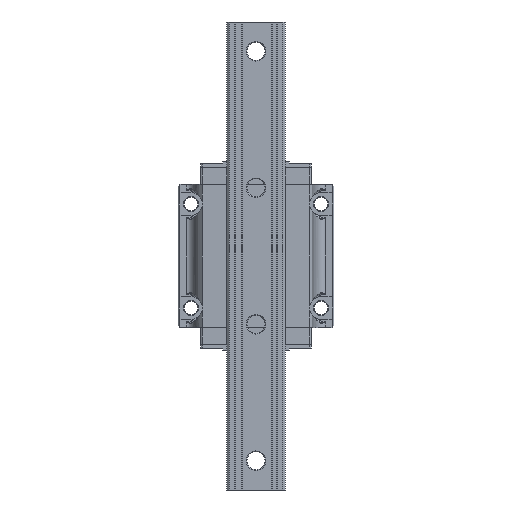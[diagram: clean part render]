
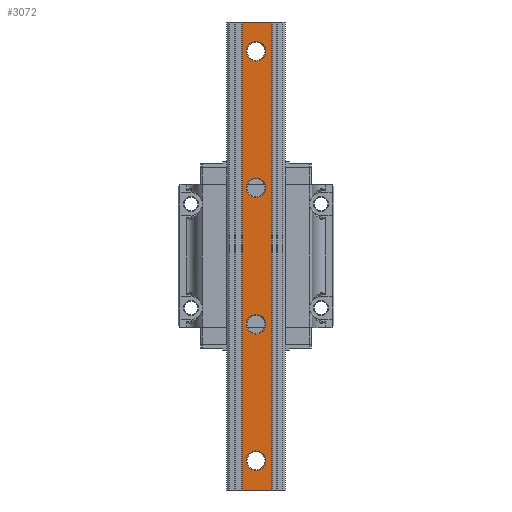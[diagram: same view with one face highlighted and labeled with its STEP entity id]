
A CAD part, front view. The second image highlights one B-rep face of the part: STEP entity #3072.
In plain terms, the highlighted planar face has unit normal (0, -1, 0).
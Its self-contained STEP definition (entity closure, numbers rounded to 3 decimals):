
#217 = ORIENTED_EDGE ( 'NONE', *, *, #511, .T. ) ;
#237 = EDGE_CURVE ( 'NONE', #22203, #10851, #1583, .T. ) ;
#511 = EDGE_CURVE ( 'NONE', #13428, #17512, #14276, .T. ) ;
#1121 = DIRECTION ( 'NONE',  ( -1., 0., 0. ) ) ;
#1258 = CARTESIAN_POINT ( 'NONE',  ( -10.5, -31.1, 180. ) ) ;
#1269 = EDGE_LOOP ( 'NONE', ( #217, #10827, #9780, #10318 ) ) ;
#1482 = CARTESIAN_POINT ( 'NONE',  ( 12., -31.1, 180. ) ) ;
#1504 = CARTESIAN_POINT ( 'NONE',  ( 0., -31.1, -157.5 ) ) ;
#1583 = CIRCLE ( 'NONE', #21045, 7.5 ) ;
#1788 = DIRECTION ( 'NONE',  ( -1., 0., 0. ) ) ;
#2172 = EDGE_CURVE ( 'NONE', #16474, #19170, #23181, .T. ) ;
#2660 = LINE ( 'NONE', #6243, #14253 ) ;
#2799 = CARTESIAN_POINT ( 'NONE',  ( 0., -31.1, 157.5 ) ) ;
#2916 = ORIENTED_EDGE ( 'NONE', *, *, #14088, .T. ) ;
#3072 = ADVANCED_FACE ( 'NONE', ( #11449, #15419, #17141, #3379, #7336 ), #11573, .F. ) ;
#3379 = FACE_BOUND ( 'NONE', #23287, .T. ) ;
#3392 = EDGE_LOOP ( 'NONE', ( #25296, #12514 ) ) ;
#3864 = CARTESIAN_POINT ( 'NONE',  ( 0., -31.1, 150. ) ) ;
#3982 = DIRECTION ( 'NONE',  ( 0., 0., -1. ) ) ;
#4195 = VERTEX_POINT ( 'NONE', #13433 ) ;
#4222 = CARTESIAN_POINT ( 'NONE',  ( -10.5, -31.1, -180. ) ) ;
#4717 = DIRECTION ( 'NONE',  ( -1., 0., 0. ) ) ;
#4758 = CARTESIAN_POINT ( 'NONE',  ( -10.5, -31.1, 180. ) ) ;
#4770 = DIRECTION ( 'NONE',  ( 0., 0., -1. ) ) ;
#5307 = DIRECTION ( 'NONE',  ( 1., 0., 0. ) ) ;
#5357 = DIRECTION ( 'NONE',  ( 0., 1., 0. ) ) ;
#5643 = DIRECTION ( 'NONE',  ( 0., 1., 0. ) ) ;
#6051 = ORIENTED_EDGE ( 'NONE', *, *, #237, .T. ) ;
#6144 = DIRECTION ( 'NONE',  ( 0., 1., 0. ) ) ;
#6243 = CARTESIAN_POINT ( 'NONE',  ( -10.5, -31.1, 180. ) ) ;
#6361 = CARTESIAN_POINT ( 'NONE',  ( 0., -31.1, -165. ) ) ;
#6706 = CIRCLE ( 'NONE', #23665, 7.5 ) ;
#6734 = EDGE_CURVE ( 'NONE', #13879, #4195, #8883, .T. ) ;
#6837 = DIRECTION ( 'NONE',  ( 0., 1., 0. ) ) ;
#7081 = AXIS2_PLACEMENT_3D ( 'NONE', #19541, #5357, #11040 ) ;
#7144 = CARTESIAN_POINT ( 'NONE',  ( 0., -31.1, 157.5 ) ) ;
#7150 = CARTESIAN_POINT ( 'NONE',  ( 0., -31.1, 45. ) ) ;
#7336 = FACE_OUTER_BOUND ( 'NONE', #1269, .T. ) ;
#7572 = VECTOR ( 'NONE', #5307, 1000. ) ;
#7857 = CIRCLE ( 'NONE', #22247, 7.5 ) ;
#8883 = LINE ( 'NONE', #4758, #7572 ) ;
#8988 = EDGE_LOOP ( 'NONE', ( #18208, #13521 ) ) ;
#9347 = EDGE_CURVE ( 'NONE', #21421, #23837, #9573, .T. ) ;
#9573 = CIRCLE ( 'NONE', #15469, 7.5 ) ;
#9598 = DIRECTION ( 'NONE',  ( 0., 1., 0. ) ) ;
#9780 = ORIENTED_EDGE ( 'NONE', *, *, #6734, .F. ) ;
#9937 = AXIS2_PLACEMENT_3D ( 'NONE', #1258, #19143, #1121 ) ;
#9962 = CARTESIAN_POINT ( 'NONE',  ( 12., -31.1, -180. ) ) ;
#10112 = CARTESIAN_POINT ( 'NONE',  ( 0., -31.1, 165. ) ) ;
#10318 = ORIENTED_EDGE ( 'NONE', *, *, #18480, .T. ) ;
#10827 = ORIENTED_EDGE ( 'NONE', *, *, #23833, .F. ) ;
#10851 = VERTEX_POINT ( 'NONE', #6361 ) ;
#10947 = CARTESIAN_POINT ( 'NONE',  ( 0., -31.1, 52.5 ) ) ;
#11040 = DIRECTION ( 'NONE',  ( -1., 0., 0. ) ) ;
#11380 = DIRECTION ( 'NONE',  ( -1., 0., 0. ) ) ;
#11449 = FACE_BOUND ( 'NONE', #3392, .T. ) ;
#11573 = PLANE ( 'NONE',  #9937 ) ;
#11735 = CIRCLE ( 'NONE', #7081, 7.5 ) ;
#12158 = AXIS2_PLACEMENT_3D ( 'NONE', #25920, #5643, #24183 ) ;
#12509 = AXIS2_PLACEMENT_3D ( 'NONE', #7144, #22067, #11380 ) ;
#12514 = ORIENTED_EDGE ( 'NONE', *, *, #18268, .T. ) ;
#13251 = EDGE_CURVE ( 'NONE', #10851, #22203, #25184, .T. ) ;
#13428 = VERTEX_POINT ( 'NONE', #24667 ) ;
#13433 = CARTESIAN_POINT ( 'NONE',  ( 12., -31.1, 180. ) ) ;
#13521 = ORIENTED_EDGE ( 'NONE', *, *, #16475, .T. ) ;
#13745 = AXIS2_PLACEMENT_3D ( 'NONE', #1504, #9598, #17680 ) ;
#13786 = CARTESIAN_POINT ( 'NONE',  ( 0., -31.1, 60. ) ) ;
#13805 = CARTESIAN_POINT ( 'NONE',  ( 0., -31.1, -150. ) ) ;
#13879 = VERTEX_POINT ( 'NONE', #19071 ) ;
#14019 = DIRECTION ( 'NONE',  ( 1., 0., 0. ) ) ;
#14088 = EDGE_CURVE ( 'NONE', #23837, #21421, #24366, .T. ) ;
#14253 = VECTOR ( 'NONE', #4770, 1000. ) ;
#14276 = LINE ( 'NONE', #4222, #20211 ) ;
#14655 = CARTESIAN_POINT ( 'NONE',  ( 0., -31.1, -60. ) ) ;
#15018 = CARTESIAN_POINT ( 'NONE',  ( 0., -31.1, 52.5 ) ) ;
#15419 = FACE_BOUND ( 'NONE', #21368, .T. ) ;
#15469 = AXIS2_PLACEMENT_3D ( 'NONE', #2799, #16837, #25188 ) ;
#15926 = VERTEX_POINT ( 'NONE', #13786 ) ;
#16474 = VERTEX_POINT ( 'NONE', #14655 ) ;
#16475 = EDGE_CURVE ( 'NONE', #15926, #23080, #7857, .T. ) ;
#16509 = CARTESIAN_POINT ( 'NONE',  ( 0., -31.1, -45. ) ) ;
#16837 = DIRECTION ( 'NONE',  ( 0., 1., 0. ) ) ;
#17140 = DIRECTION ( 'NONE',  ( 0., 1., 0. ) ) ;
#17141 = FACE_BOUND ( 'NONE', #8988, .T. ) ;
#17512 = VERTEX_POINT ( 'NONE', #9962 ) ;
#17680 = DIRECTION ( 'NONE',  ( -1., 0., 0. ) ) ;
#17954 = CARTESIAN_POINT ( 'NONE',  ( 0., -31.1, -157.5 ) ) ;
#18162 = LINE ( 'NONE', #1482, #18512 ) ;
#18208 = ORIENTED_EDGE ( 'NONE', *, *, #25752, .T. ) ;
#18268 = EDGE_CURVE ( 'NONE', #19170, #16474, #11735, .T. ) ;
#18480 = EDGE_CURVE ( 'NONE', #13879, #13428, #2660, .T. ) ;
#18512 = VECTOR ( 'NONE', #3982, 1000. ) ;
#19071 = CARTESIAN_POINT ( 'NONE',  ( -10.5, -31.1, 180. ) ) ;
#19143 = DIRECTION ( 'NONE',  ( 0., 1., 0. ) ) ;
#19170 = VERTEX_POINT ( 'NONE', #16509 ) ;
#19541 = CARTESIAN_POINT ( 'NONE',  ( 0., -31.1, -52.5 ) ) ;
#20211 = VECTOR ( 'NONE', #14019, 1000. ) ;
#21045 = AXIS2_PLACEMENT_3D ( 'NONE', #17954, #6144, #1788 ) ;
#21368 = EDGE_LOOP ( 'NONE', ( #24918, #6051 ) ) ;
#21421 = VERTEX_POINT ( 'NONE', #10112 ) ;
#22067 = DIRECTION ( 'NONE',  ( 0., 1., 0. ) ) ;
#22203 = VERTEX_POINT ( 'NONE', #13805 ) ;
#22247 = AXIS2_PLACEMENT_3D ( 'NONE', #10947, #6837, #4717 ) ;
#23080 = VERTEX_POINT ( 'NONE', #7150 ) ;
#23107 = DIRECTION ( 'NONE',  ( -1., 0., 0. ) ) ;
#23181 = CIRCLE ( 'NONE', #12158, 7.5 ) ;
#23287 = EDGE_LOOP ( 'NONE', ( #2916, #24514 ) ) ;
#23665 = AXIS2_PLACEMENT_3D ( 'NONE', #15018, #17140, #23107 ) ;
#23833 = EDGE_CURVE ( 'NONE', #4195, #17512, #18162, .T. ) ;
#23837 = VERTEX_POINT ( 'NONE', #3864 ) ;
#24183 = DIRECTION ( 'NONE',  ( -1., 0., 0. ) ) ;
#24366 = CIRCLE ( 'NONE', #12509, 7.5 ) ;
#24514 = ORIENTED_EDGE ( 'NONE', *, *, #9347, .T. ) ;
#24667 = CARTESIAN_POINT ( 'NONE',  ( -10.5, -31.1, -180. ) ) ;
#24918 = ORIENTED_EDGE ( 'NONE', *, *, #13251, .T. ) ;
#25184 = CIRCLE ( 'NONE', #13745, 7.5 ) ;
#25188 = DIRECTION ( 'NONE',  ( -1., 0., 0. ) ) ;
#25296 = ORIENTED_EDGE ( 'NONE', *, *, #2172, .T. ) ;
#25752 = EDGE_CURVE ( 'NONE', #23080, #15926, #6706, .T. ) ;
#25920 = CARTESIAN_POINT ( 'NONE',  ( 0., -31.1, -52.5 ) ) ;
